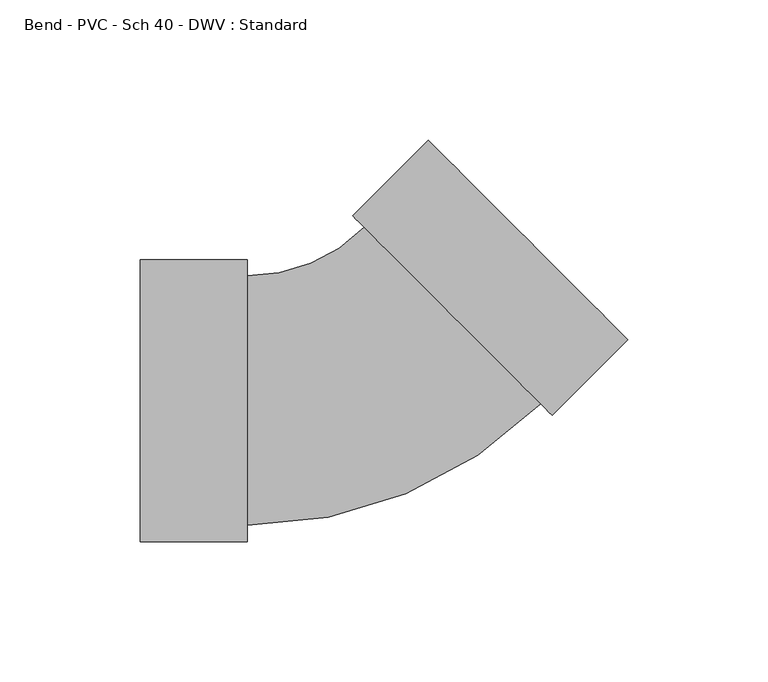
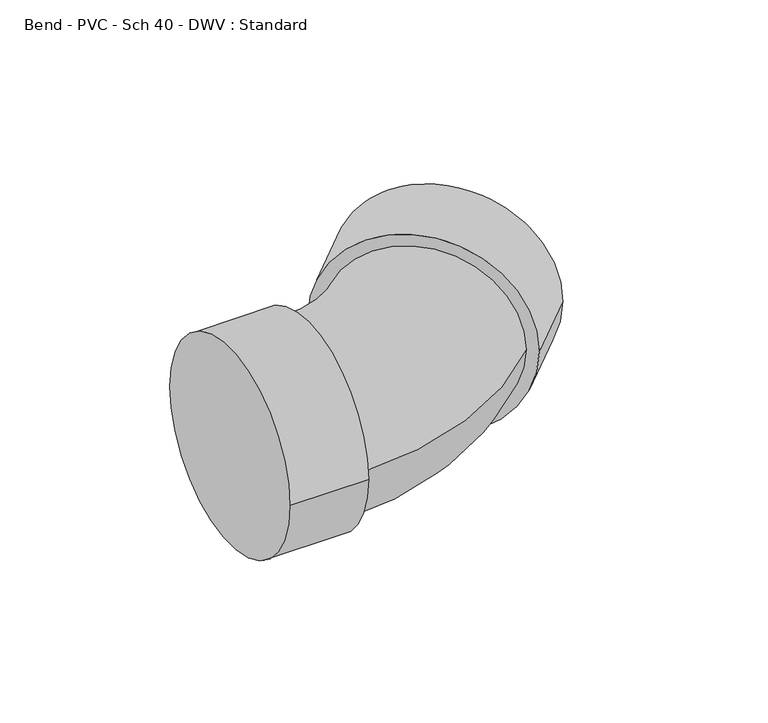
"""IFC4 building model written with IfcOpenShell, lengths in millimetres: pipe fitting geometry, Bend - PVC - Sch 40 - DWV : Standard."""

from ifc_helpers import new_model, si_unit, point, frame, origin, place, context, project, spatial, circle_curve, ellipse_curve, trimmed, source, transform, mapped, element, save
from ifc_brep_helpers import plane_surface, cylinder_surface, revolved_surface, advanced_brep


def bend_pvc_sch_40_dwv_standard_3aed0458(model_context):
    return source(origin(), model_context, "Body", "AdvancedBrep", [
        advanced_brep(
        [(-80.9752, -50.2666, 0.0), (-80.9752, 50.2666, 0.0), (-42.8752, -50.2666, 0.0), (-42.8752, 50.2666, 0.0), (-42.8752, -44.45, 0.0), (-42.8752, 44.45, 0.0), (-1.1174361, 61.7481709, 0.0), (61.748311, -1.1096674, 0.0), (65.861527, -5.2223659, 0.0), (-5.2306522, 65.8608695, 0.0), (92.8006006, 21.7200971, 0.0), (21.7084214, 92.8033325, 0.0)],
        [
            (0, 1, circle_curve(frame((-80.9752, 0.0, 0.0), z_axis=(-1.0, 0.0, 0.0), x_axis=(0.0, 1.0, 0.0)), 50.2666)),
            (1, 0, circle_curve(frame((-80.9752, 0.0, 0.0), z_axis=(-1.0, 0.0, 0.0), x_axis=(0.0, 1.0, 0.0)), 50.2666)),
            (2, 3, circle_curve(frame((-42.8752, 0.0, 0.0), z_axis=(1.0, 0.0, 0.0), x_axis=(0.0, 1.0, 0.0)), 50.2666)),
            (3, 2, circle_curve(frame((-42.8752, 0.0, 0.0), z_axis=(1.0, 0.0, 0.0), x_axis=(0.0, 1.0, 0.0)), 50.2666)),
            (4, 5, circle_curve(frame((-42.8752, 0.0, 0.0), z_axis=(-1.0, 0.0, 0.0), x_axis=(0.0, 1.0, 0.0)), 44.45)),
            (5, 4, circle_curve(frame((-42.8752, 0.0, 0.0), z_axis=(-1.0, 0.0, 0.0), x_axis=(0.0, 1.0, 0.0)), 44.45)),
            (0, 2),
            (3, 1),
            (6, 5, circle_curve(frame((-42.8752, 103.5006814, 0.0), z_axis=(0.0, 0.0, -1.0), x_axis=(0.0, -1.0, 0.0)), 59.0506814)),
            (4, 7, circle_curve(frame((-42.8752, 103.5006814, 0.0), z_axis=(0.0, 0.0, 1.0), x_axis=(0.0, -1.0, 0.0)), 147.9506814)),
            (7, 6, circle_curve(frame((30.3154374, 30.3192518, 0.0), z_axis=(-0.7070622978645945, -0.707151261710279, 0.0), x_axis=(-0.707151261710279, 0.7070622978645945, 0.0)), 44.45)),
            (6, 7, circle_curve(frame((30.3154374, 30.3192518, 0.0), z_axis=(-0.7070622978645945, -0.707151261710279, 0.0), x_axis=(-0.707151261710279, 0.7070622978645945, 0.0)), 44.45)),
            (8, 9, circle_curve(frame((30.3154374, 30.3192518, 0.0), z_axis=(-0.707062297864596, -0.7071512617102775, 0.0), x_axis=(-0.7071512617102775, 0.707062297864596, 0.0)), 50.2666)),
            (9, 8, circle_curve(frame((30.3154374, 30.3192518, 0.0), z_axis=(-0.707062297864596, -0.7071512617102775, 0.0), x_axis=(-0.7071512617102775, 0.707062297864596, 0.0)), 50.2666)),
            (10, 11, circle_curve(frame((57.254511, 57.2617148, 0.0), z_axis=(0.707062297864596, 0.7071512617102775, 0.0), x_axis=(-0.7071512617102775, 0.707062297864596, 0.0)), 50.2666)),
            (11, 10, circle_curve(frame((57.254511, 57.2617148, 0.0), z_axis=(0.707062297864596, 0.7071512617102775, 0.0), x_axis=(-0.7071512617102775, 0.707062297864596, 0.0)), 50.2666)),
            (8, 10),
            (11, 9),
        ],
        [
            plane_surface(frame((-80.9752, 0.0, 0.0), z_axis=(-1.0, 0.0, 0.0), x_axis=(0.0, 0.0, 1.0))),
            plane_surface(frame((-42.8752, 0.0, 0.0), z_axis=(1.0, 0.0, 0.0), x_axis=(0.0, 0.0, 1.0))),
            cylinder_surface(frame((-80.9752, 0.0, 0.0), z_axis=(-1.0, 0.0, 0.0), x_axis=(0.0, 1.0, 0.0)), 50.2666),
            revolved_surface(trimmed(ellipse_curve(frame((-42.8752, 0.0, 0.0), z_axis=(-1.0, 0.0, 0.0), x_axis=(0.0, 1.0, 0.0)), 44.45, 44.45), [point((-42.8752, -44.45, 0.0))], [point((-42.8752, 44.45, 0.0))], True, "CARTESIAN"), (-42.8752, 103.5006814, 0.0), (0.0, 0.0, 1.0)),
            revolved_surface(trimmed(ellipse_curve(frame((-42.8752, 0.0, 0.0), z_axis=(-1.0, 0.0, 0.0), x_axis=(0.0, 1.0, 0.0)), 44.45, 44.45), [point((-42.8752, 44.45, 0.0))], [point((-42.8752, -44.45, 0.0))], True, "CARTESIAN"), (-42.8752, 103.5006814, 0.0), (0.0, 0.0, 1.0)),
            plane_surface(frame((30.3154374, 30.3192518, 0.0), z_axis=(-0.707062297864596, -0.7071512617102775, 0.0), x_axis=(0.0, 0.0, 1.0))),
            plane_surface(frame((57.254511, 57.2617148, 0.0), z_axis=(0.707062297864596, 0.7071512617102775, 0.0), x_axis=(0.0, 0.0, 1.0))),
            cylinder_surface(frame((30.3154374, 30.3192518, 0.0), z_axis=(-0.707062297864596, -0.7071512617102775, 0.0), x_axis=(-0.7071512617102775, 0.707062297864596, 0.0)), 50.2666),
        ],
        [
            (0, [[1, 2]]),
            (1, [[3, 4], [5, 6]]),
            (2, [[-1, 7, -4, 8]]),
            (2, [[-2, -8, -3, -7]]),
            (3, [[9, -5, 10, 11]]),
            (4, [[-9, 12, -10, -6]]),
            (5, [[13, 14], [-11, -12]]),
            (6, [[15, 16]]),
            (7, [[-13, 17, -16, 18]]),
            (7, [[-14, -18, -15, -17]]),
        ],
    ),
    ])


if __name__ == "__main__":
    model = new_model("IFC4")
    model_context = context("Model", 3, world=origin())
    ifc_project = project(units=[si_unit("LENGTHUNIT", "METRE", prefix="MILLI")], contexts=[model_context])
    site = spatial("IfcSite", under=ifc_project)
    building = spatial("IfcBuilding", under=site)
    placement = place(None, origin())
    bend_pvc_sch_40_dwv_standard_shape = bend_pvc_sch_40_dwv_standard_3aed0458(model_context)
    element("IfcPipeFitting", 1, ObjectType="Bend - PVC - Sch 40 - DWV : Standard", at=placement, inside=building, context=model_context, shape_type="MappedRepresentation", body=[
        mapped(bend_pvc_sch_40_dwv_standard_shape, transform((0.0, 0.0, 0.0), x_axis=(1.0, 0.0, 0.0), y_axis=(0.0, 1.0, 0.0), z_axis=(0.0, 0.0, 1.0))),
    ])
    save(model, "model.ifc")
